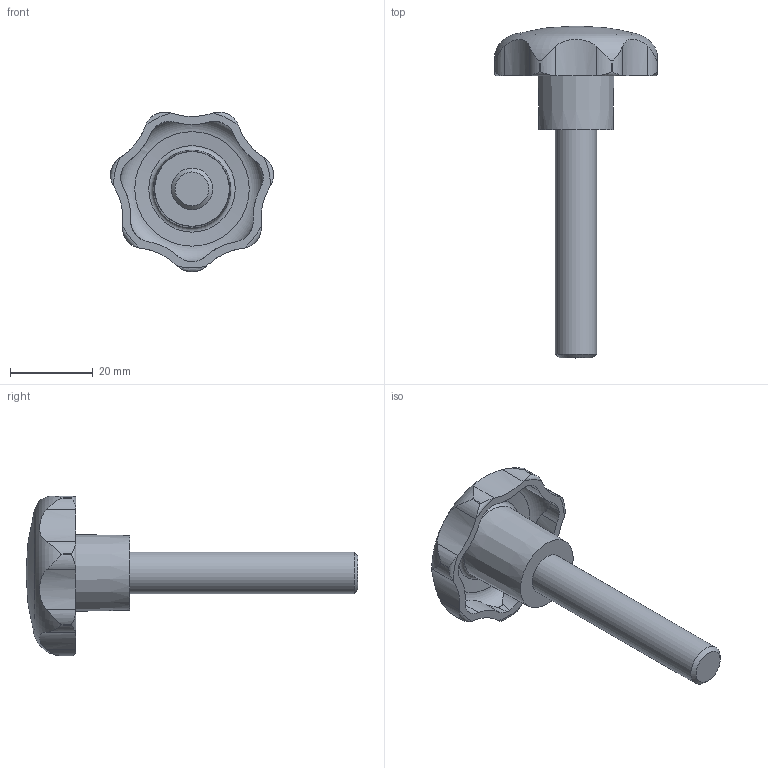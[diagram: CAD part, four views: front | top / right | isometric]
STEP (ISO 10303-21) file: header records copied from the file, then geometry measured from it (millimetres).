
FILE_DESCRIPTION( ( 'STEP AP203' ), '1' );
FILE_NAME( 'C:/Temp/Ganter_Step_05_03_2020/data/2_2/gn_6336_4/gn_6336_4_st/Star knob GN 6336.4-ST-40-M10-55.stp', '2020-03-05T12:07:35', ( 'License CC BY-ND 4.0' ), ( 'CADENAS' ), ' ', 'PARTsolutions', ' ' );
FILE_SCHEMA( ( 'CONFIG_CONTROL_DESIGN' ) );
Length unit declared in the file: millimetre
Products named in the file (1): _Star knob GN 6336.4-ST-40-M10-55
Bounding box: 39.25 x 80 x 38.51 mm (x, y, z)
Volume: 15119.2 mm3; surface area: 6605.4 mm2
Topology: 1 solids, 1 shells, 74 faces, 209 edges, 138 vertices
Faces by surface type: cylinder 43, torus 17, cone 10, plane 3, sphere 1
Full cylindrical faces by diameter (mm): 10 x1
Entity records: 3288 total; most frequent: CARTESIAN_POINT 1437, ORIENTED_EDGE 394, DIRECTION 362, EDGE_CURVE 197, AXIS2_PLACEMENT_3D 160, VERTEX_POINT 135, CIRCLE 85, EDGE_LOOP 83
